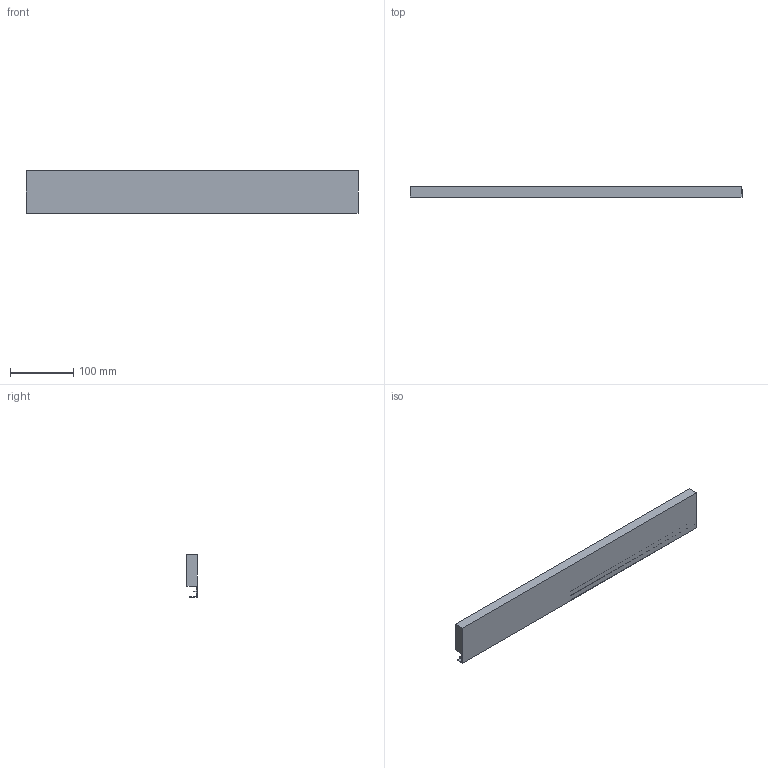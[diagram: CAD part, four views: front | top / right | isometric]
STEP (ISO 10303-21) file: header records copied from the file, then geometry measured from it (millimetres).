
FILE_DESCRIPTION (( 'STEP AP214' ), '1' );
FILE_NAME ('Innenschub-Blendenprofil_KAB650_S18.step', '2010-09-23T12:27:00', ( 'grass' ), ( '' ), 'SwSTEP 2.0', 'SolidWorks 2010', '' );
FILE_SCHEMA (( 'AUTOMOTIVE_DESIGN' ));
Length unit declared in the file: millimetre
Products named in the file (1): Innenschub-Blendenprofil_KAB650_S18
Bounding box: 523 x 15.9 x 67.6 mm (x, y, z)
Volume: 433639.8 mm3; surface area: 104305.6 mm2
Topology: 1 solids, 1 shells, 17 faces, 42 edges, 28 vertices
Faces by surface type: plane 15, cylinder 2
Entity records: 534 total; most frequent: CARTESIAN_POINT 88, ORIENTED_EDGE 84, DIRECTION 82, EDGE_CURVE 42, LINE 38, VECTOR 38, VERTEX_POINT 28, AXIS2_PLACEMENT_3D 22
